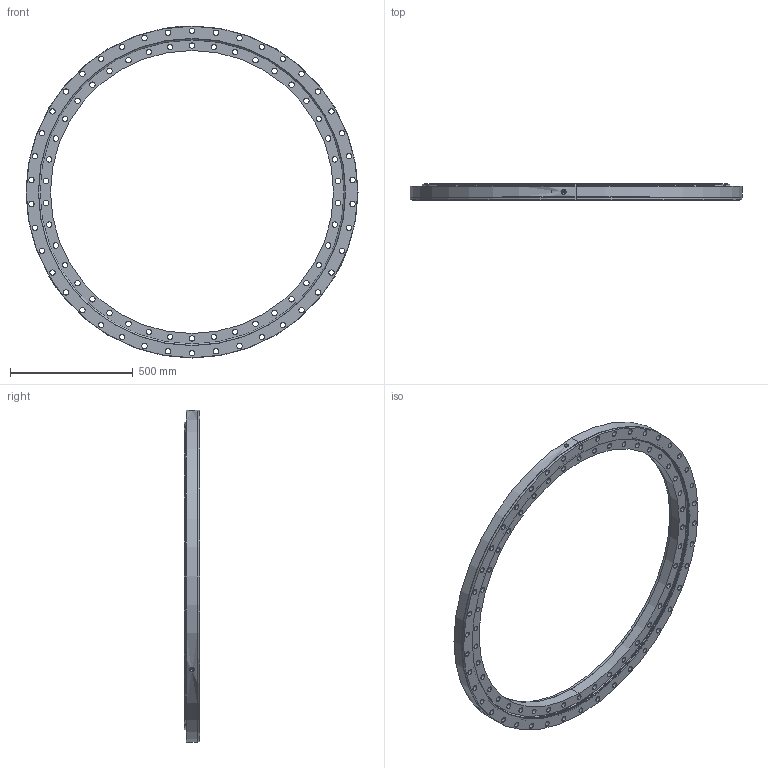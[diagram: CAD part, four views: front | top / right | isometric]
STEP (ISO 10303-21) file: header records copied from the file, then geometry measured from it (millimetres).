
FILE_DESCRIPTION (( 'STEP AP214' ), '1' );
FILE_NAME ('B2125-0-1355AA.STEP', '2022-11-24T06:50:29', ( '' ), ( '' ), 'SwSTEP 2.0', 'SolidWorks 2020', '' );
FILE_SCHEMA (( 'AUTOMOTIVE_DESIGN' ));
Length unit declared in the file: millimetre
Products named in the file (1): B2125-0-1355AA
Bounding box: 1355 x 65 x 1355 mm (x, y, z)
Volume: 19586426.3 mm3; surface area: 2278817.2 mm2
Topology: 4 solids, 4 shells, 247 faces, 669 edges, 442 vertices
Faces by surface type: cylinder 215, plane 20, cone 12
Entity records: 8939 total; most frequent: CARTESIAN_POINT 1885, DIRECTION 1580, ORIENTED_EDGE 1338, AXIS2_PLACEMENT_3D 677, EDGE_CURVE 669, VERTEX_POINT 442, EDGE_LOOP 441, CIRCLE 429
